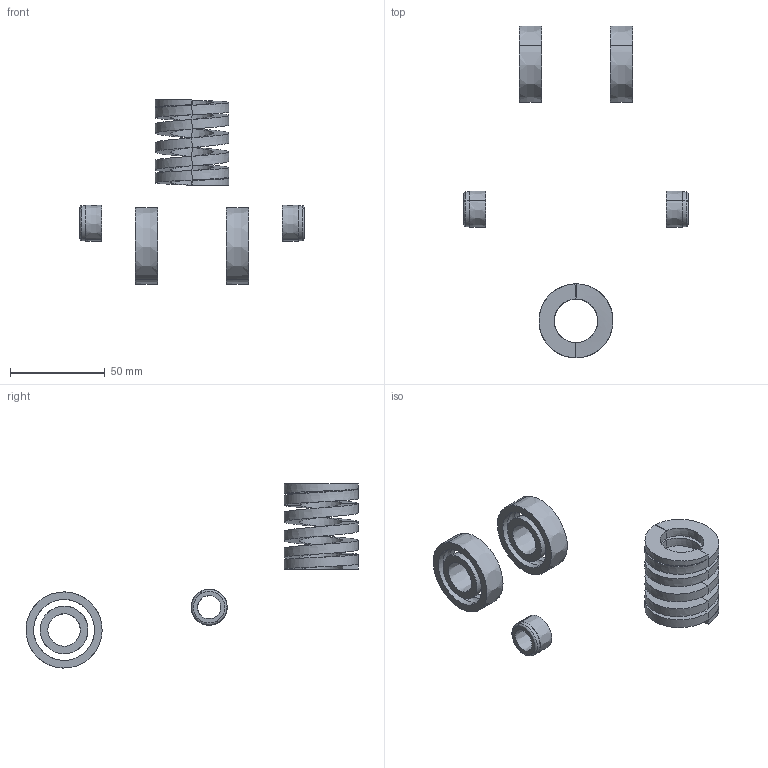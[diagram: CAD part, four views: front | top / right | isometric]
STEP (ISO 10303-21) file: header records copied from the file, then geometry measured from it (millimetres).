
FILE_DESCRIPTION (( 'STEP AP214' ), '1' );
FILE_NAME ('KTU-200WK-GS-40.STEP', '2018-08-30T08:05:29', ( '' ), ( '' ), 'SwSTEP 2.0', 'SolidWorks 2010', '' );
FILE_SCHEMA (( 'AUTOMOTIVE_DESIGN' ));
Length unit declared in the file: millimetre
Products named in the file (1): KTU-200WK-GS-40
Bounding box: 118.2 x 175.07 x 97.07 mm (x, y, z)
Volume: 41825.8 mm3; surface area: 29722.2 mm2
Topology: 7 solids, 7 shells, 114 faces, 320 edges, 222 vertices
Faces by surface type: bspline 96, plane 18
Entity records: 25609 total; most frequent: CARTESIAN_POINT 22830, ORIENTED_EDGE 640, EDGE_CURVE 320, B_SPLINE_CURVE_WITH_KNOTS 230, VERTEX_POINT 222, DIRECTION 128, EDGE_LOOP 128, FACE_OUTER_BOUND 114
